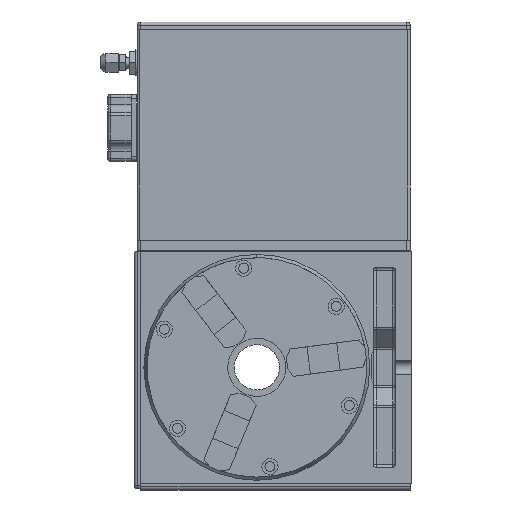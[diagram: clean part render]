
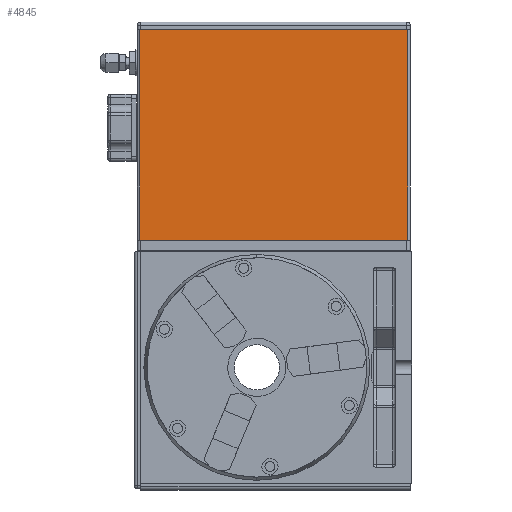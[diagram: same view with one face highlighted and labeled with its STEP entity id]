
A CAD part, left-side view. The second image highlights one B-rep face of the part: STEP entity #4845.
In plain terms, the highlighted planar face has unit normal (-1, 0, 0).
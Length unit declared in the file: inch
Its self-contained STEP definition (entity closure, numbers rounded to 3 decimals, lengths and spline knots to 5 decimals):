
#235 = DIRECTION ( 'NONE',  ( 1., 0., 0. ) ) ;
#794 = DIRECTION ( 'NONE',  ( 0., -1., 0. ) ) ;
#814 = VERTEX_POINT ( 'NONE', #12737 ) ;
#2028 = EDGE_CURVE ( 'NONE', #814, #23683, #10894, .T. ) ;
#2266 = VECTOR ( 'NONE', #5737, 39.37008 ) ;
#4307 = LINE ( 'NONE', #24374, #10260 ) ;
#4845 = ADVANCED_FACE ( 'NONE', ( #11456 ), #6772, .F. ) ;
#5737 = DIRECTION ( 'NONE',  ( 0., -1., 0. ) ) ;
#6772 = PLANE ( 'NONE',  #21940 ) ;
#6885 = CARTESIAN_POINT ( 'NONE',  ( -4., 4.5363, 13.0941 ) ) ;
#7311 = CARTESIAN_POINT ( 'NONE',  ( -4., -5.8653, 5.0212 ) ) ;
#8433 = VECTOR ( 'NONE', #15584, 39.37008 ) ;
#9695 = ORIENTED_EDGE ( 'NONE', *, *, #23058, .T. ) ;
#10260 = VECTOR ( 'NONE', #19538, 39.37008 ) ;
#10894 = LINE ( 'NONE', #13306, #8433 ) ;
#11456 = FACE_OUTER_BOUND ( 'NONE', #26550, .T. ) ;
#12065 = ORIENTED_EDGE ( 'NONE', *, *, #26598, .F. ) ;
#12323 = VERTEX_POINT ( 'NONE', #19254 ) ;
#12737 = CARTESIAN_POINT ( 'NONE',  ( -4., -5.8413, 13.0941 ) ) ;
#13306 = CARTESIAN_POINT ( 'NONE',  ( -4., -5.8413, 5.0212 ) ) ;
#15584 = DIRECTION ( 'NONE',  ( 0., 0., -1. ) ) ;
#16343 = ORIENTED_EDGE ( 'NONE', *, *, #19936, .F. ) ;
#19254 = CARTESIAN_POINT ( 'NONE',  ( -4., 4.5363, 4.9225 ) ) ;
#19538 = DIRECTION ( 'NONE',  ( 0., 1., 0. ) ) ;
#19936 = EDGE_CURVE ( 'NONE', #23683, #12323, #4307, .T. ) ;
#20450 = LINE ( 'NONE', #22724, #20718 ) ;
#20718 = VECTOR ( 'NONE', #22586, 39.37008 ) ;
#21103 = ORIENTED_EDGE ( 'NONE', *, *, #2028, .F. ) ;
#21940 = AXIS2_PLACEMENT_3D ( 'NONE', #7311, #235, #794 ) ;
#22586 = DIRECTION ( 'NONE',  ( 0., 0., -1. ) ) ;
#22724 = CARTESIAN_POINT ( 'NONE',  ( -4., 4.5363, 12.9954 ) ) ;
#23058 = EDGE_CURVE ( 'NONE', #25026, #12323, #20450, .T. ) ;
#23683 = VERTEX_POINT ( 'NONE', #25579 ) ;
#24374 = CARTESIAN_POINT ( 'NONE',  ( -4., -5.8413, 4.9225 ) ) ;
#25026 = VERTEX_POINT ( 'NONE', #6885 ) ;
#25106 = CARTESIAN_POINT ( 'NONE',  ( -4., -5.8413, 13.0941 ) ) ;
#25579 = CARTESIAN_POINT ( 'NONE',  ( -4., -5.8413, 4.9225 ) ) ;
#26550 = EDGE_LOOP ( 'NONE', ( #9695, #16343, #21103, #12065 ) ) ;
#26598 = EDGE_CURVE ( 'NONE', #25026, #814, #27407, .T. ) ;
#27407 = LINE ( 'NONE', #25106, #2266 ) ;
